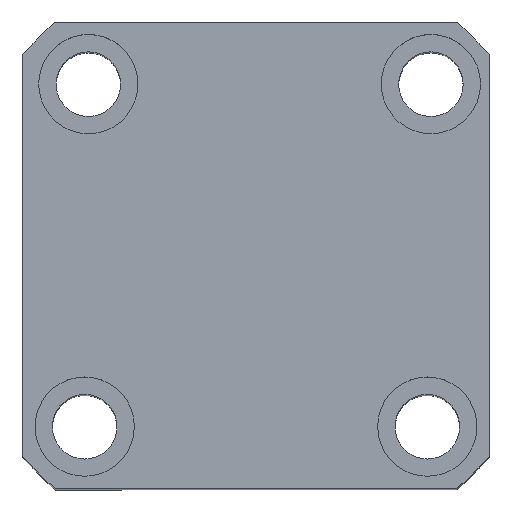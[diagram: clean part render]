
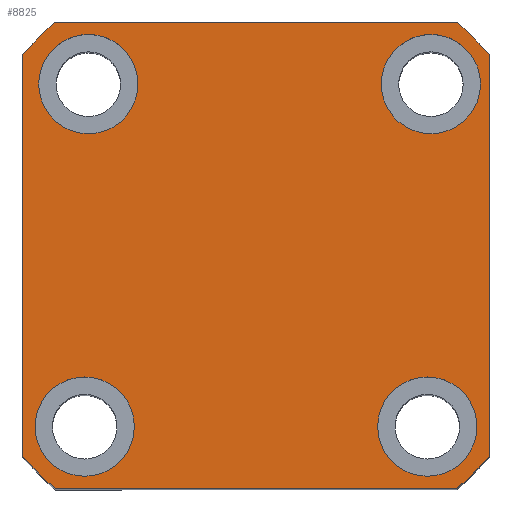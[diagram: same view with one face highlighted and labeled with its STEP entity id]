
A CAD part, top view. The second image highlights one B-rep face of the part: STEP entity #8825.
In plain terms, the highlighted planar face has unit normal (0, 0, 1) as drawn and (0, 0, -1) by its records, which use the part's own axes.
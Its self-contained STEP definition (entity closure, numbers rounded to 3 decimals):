
#50 = DIRECTION ( 'NONE',  ( 1., 0., 0. ) ) ;
#314 = DIRECTION ( 'NONE',  ( 1., 0., 0. ) ) ;
#388 = EDGE_CURVE ( 'NONE', #6160, #10420, #16152, .T. ) ;
#458 = DIRECTION ( 'NONE',  ( 0., 0., 1. ) ) ;
#506 = CIRCLE ( 'NONE', #16289, 10. ) ;
#579 = ORIENTED_EDGE ( 'NONE', *, *, #16256, .F. ) ;
#604 = VERTEX_POINT ( 'NONE', #9990 ) ;
#772 = CARTESIAN_POINT ( 'NONE',  ( 0., 0., 0. ) ) ;
#929 = DIRECTION ( 'NONE',  ( -1., 0., 0. ) ) ;
#956 = AXIS2_PLACEMENT_3D ( 'NONE', #16520, #8298, #50 ) ;
#1002 = EDGE_CURVE ( 'NONE', #4892, #7917, #7990, .T. ) ;
#1148 = CARTESIAN_POINT ( 'NONE',  ( 35.23, -34.5, 0. ) ) ;
#1442 = AXIS2_PLACEMENT_3D ( 'NONE', #2651, #12257, #4025 ) ;
#1810 = CIRCLE ( 'NONE', #7074, 62. ) ;
#2023 = CARTESIAN_POINT ( 'NONE',  ( -33.77, -34.5, 0. ) ) ;
#2184 = LINE ( 'NONE', #9155, #15931 ) ;
#2206 = CARTESIAN_POINT ( 'NONE',  ( -34.5, 34.5, 0. ) ) ;
#2238 = AXIS2_PLACEMENT_3D ( 'NONE', #8707, #458, #10072 ) ;
#2259 = VERTEX_POINT ( 'NONE', #9032 ) ;
#2310 = DIRECTION ( 'NONE',  ( 0., 1., 0. ) ) ;
#2402 = DIRECTION ( 'NONE',  ( 0., -1., 0. ) ) ;
#2470 = ORIENTED_EDGE ( 'NONE', *, *, #17253, .F. ) ;
#2530 = DIRECTION ( 'NONE',  ( -1., 0., 0. ) ) ;
#2651 = CARTESIAN_POINT ( 'NONE',  ( 34.5, 34.5, 0. ) ) ;
#2840 = VERTEX_POINT ( 'NONE', #6070 ) ;
#3096 = FACE_OUTER_BOUND ( 'NONE', #8111, .T. ) ;
#3389 = EDGE_CURVE ( 'NONE', #12314, #10019, #17509, .T. ) ;
#3404 = DIRECTION ( 'NONE',  ( -1., 0., 0. ) ) ;
#3543 = FACE_BOUND ( 'NONE', #6830, .T. ) ;
#3586 = DIRECTION ( 'NONE',  ( -1., 0., 0. ) ) ;
#3598 = EDGE_LOOP ( 'NONE', ( #9371, #11863 ) ) ;
#3698 = CARTESIAN_POINT ( 'NONE',  ( -47., 47., 0. ) ) ;
#3708 = ORIENTED_EDGE ( 'NONE', *, *, #4887, .F. ) ;
#3722 = EDGE_CURVE ( 'NONE', #10420, #6160, #16215, .T. ) ;
#4025 = DIRECTION ( 'NONE',  ( -1., 0., 0. ) ) ;
#4118 = VERTEX_POINT ( 'NONE', #5917 ) ;
#4172 = ORIENTED_EDGE ( 'NONE', *, *, #7262, .F. ) ;
#4520 = AXIS2_PLACEMENT_3D ( 'NONE', #2206, #11798, #3586 ) ;
#4827 = CARTESIAN_POINT ( 'NONE',  ( -34.5, 34.5, 0. ) ) ;
#4887 = EDGE_CURVE ( 'NONE', #16491, #4892, #15792, .T. ) ;
#4892 = VERTEX_POINT ( 'NONE', #9870 ) ;
#4911 = DIRECTION ( 'NONE',  ( 0., 0., 1. ) ) ;
#5014 = VERTEX_POINT ( 'NONE', #5773 ) ;
#5301 = CARTESIAN_POINT ( 'NONE',  ( 47., -40.435, 0. ) ) ;
#5369 = CARTESIAN_POINT ( 'NONE',  ( -33.77, -34.5, 0. ) ) ;
#5490 = CARTESIAN_POINT ( 'NONE',  ( 47., 40.435, 0. ) ) ;
#5773 = CARTESIAN_POINT ( 'NONE',  ( -23.77, -34.5, 0. ) ) ;
#5788 = DIRECTION ( 'NONE',  ( 1., 0., 0. ) ) ;
#5917 = CARTESIAN_POINT ( 'NONE',  ( -24.5, 34.5, 0. ) ) ;
#5941 = CARTESIAN_POINT ( 'NONE',  ( 45.23, -34.5, 0. ) ) ;
#5975 = AXIS2_PLACEMENT_3D ( 'NONE', #16773, #8561, #314 ) ;
#6070 = CARTESIAN_POINT ( 'NONE',  ( -43.77, -34.5, 0. ) ) ;
#6153 = AXIS2_PLACEMENT_3D ( 'NONE', #772, #4911, #14538 ) ;
#6160 = VERTEX_POINT ( 'NONE', #5941 ) ;
#6184 = DIRECTION ( 'NONE',  ( 0., 0., -1. ) ) ;
#6189 = DIRECTION ( 'NONE',  ( 0., 0., -1. ) ) ;
#6215 = DIRECTION ( 'NONE',  ( -1., 0., 0. ) ) ;
#6511 = AXIS2_PLACEMENT_3D ( 'NONE', #5369, #14997, #6776 ) ;
#6776 = DIRECTION ( 'NONE',  ( -1., 0., 0. ) ) ;
#6778 = FACE_BOUND ( 'NONE', #16476, .T. ) ;
#6830 = EDGE_LOOP ( 'NONE', ( #17809, #11343 ) ) ;
#7074 = AXIS2_PLACEMENT_3D ( 'NONE', #16438, #8210, #17814 ) ;
#7195 = CARTESIAN_POINT ( 'NONE',  ( -47., -47., 0. ) ) ;
#7262 = EDGE_CURVE ( 'NONE', #2259, #14836, #16841, .T. ) ;
#7392 = ORIENTED_EDGE ( 'NONE', *, *, #3722, .F. ) ;
#7622 = CIRCLE ( 'NONE', #4520, 10. ) ;
#7917 = VERTEX_POINT ( 'NONE', #10784 ) ;
#7985 = EDGE_CURVE ( 'NONE', #2840, #5014, #10200, .T. ) ;
#7990 = LINE ( 'NONE', #3698, #13571 ) ;
#8111 = EDGE_LOOP ( 'NONE', ( #3708, #2470, #13852, #4172, #11920, #579, #14336, #14066 ) ) ;
#8210 = DIRECTION ( 'NONE',  ( 0., 0., 1. ) ) ;
#8298 = DIRECTION ( 'NONE',  ( 0., 0., 1. ) ) ;
#8511 = CARTESIAN_POINT ( 'NONE',  ( 24.5, 34.5, 0. ) ) ;
#8516 = AXIS2_PLACEMENT_3D ( 'NONE', #14409, #6189, #15798 ) ;
#8561 = DIRECTION ( 'NONE',  ( 0., 0., 1. ) ) ;
#8668 = VERTEX_POINT ( 'NONE', #12965 ) ;
#8707 = CARTESIAN_POINT ( 'NONE',  ( 0., 0., 0. ) ) ;
#8825 = ADVANCED_FACE ( 'NONE', ( #14504, #3543, #6778, #17718, #3096 ), #10258, .F. ) ;
#8844 = VECTOR ( 'NONE', #2402, 1000. ) ;
#9032 = CARTESIAN_POINT ( 'NONE',  ( -40.435, -47., 0. ) ) ;
#9155 = CARTESIAN_POINT ( 'NONE',  ( 47., 47., 0. ) ) ;
#9170 = EDGE_CURVE ( 'NONE', #14836, #12636, #1810, .T. ) ;
#9357 = EDGE_CURVE ( 'NONE', #5014, #2840, #506, .T. ) ;
#9371 = ORIENTED_EDGE ( 'NONE', *, *, #17557, .F. ) ;
#9814 = EDGE_LOOP ( 'NONE', ( #7392, #15376 ) ) ;
#9870 = CARTESIAN_POINT ( 'NONE',  ( 40.435, 47., 0. ) ) ;
#9990 = CARTESIAN_POINT ( 'NONE',  ( -47., 40.435, 0. ) ) ;
#10019 = VERTEX_POINT ( 'NONE', #8511 ) ;
#10072 = DIRECTION ( 'NONE',  ( 1., 0., 0. ) ) ;
#10200 = CIRCLE ( 'NONE', #6511, 10. ) ;
#10258 = PLANE ( 'NONE',  #6153 ) ;
#10273 = CARTESIAN_POINT ( 'NONE',  ( -47., -40.435, 0. ) ) ;
#10287 = CARTESIAN_POINT ( 'NONE',  ( 44.5, 34.5, 0. ) ) ;
#10411 = EDGE_CURVE ( 'NONE', #4118, #8668, #7622, .T. ) ;
#10420 = VERTEX_POINT ( 'NONE', #15896 ) ;
#10746 = DIRECTION ( 'NONE',  ( 0., 0., -1. ) ) ;
#10784 = CARTESIAN_POINT ( 'NONE',  ( -40.435, 47., 0. ) ) ;
#10802 = ORIENTED_EDGE ( 'NONE', *, *, #14070, .F. ) ;
#11035 = AXIS2_PLACEMENT_3D ( 'NONE', #14405, #6184, #15790 ) ;
#11207 = CIRCLE ( 'NONE', #12354, 10. ) ;
#11306 = VERTEX_POINT ( 'NONE', #10273 ) ;
#11343 = ORIENTED_EDGE ( 'NONE', *, *, #9357, .F. ) ;
#11615 = DIRECTION ( 'NONE',  ( 0., 0., -1. ) ) ;
#11798 = DIRECTION ( 'NONE',  ( 0., 0., -1. ) ) ;
#11863 = ORIENTED_EDGE ( 'NONE', *, *, #3389, .F. ) ;
#11920 = ORIENTED_EDGE ( 'NONE', *, *, #13429, .F. ) ;
#12257 = DIRECTION ( 'NONE',  ( 0., 0., -1. ) ) ;
#12314 = VERTEX_POINT ( 'NONE', #10287 ) ;
#12354 = AXIS2_PLACEMENT_3D ( 'NONE', #4827, #14442, #6215 ) ;
#12636 = VERTEX_POINT ( 'NONE', #5301 ) ;
#12750 = VECTOR ( 'NONE', #5788, 1000. ) ;
#12965 = CARTESIAN_POINT ( 'NONE',  ( -44.5, 34.5, 0. ) ) ;
#13429 = EDGE_CURVE ( 'NONE', #11306, #2259, #17023, .T. ) ;
#13571 = VECTOR ( 'NONE', #929, 1000. ) ;
#13780 = CIRCLE ( 'NONE', #956, 62. ) ;
#13852 = ORIENTED_EDGE ( 'NONE', *, *, #9170, .F. ) ;
#14066 = ORIENTED_EDGE ( 'NONE', *, *, #1002, .F. ) ;
#14070 = EDGE_CURVE ( 'NONE', #8668, #4118, #11207, .T. ) ;
#14252 = ORIENTED_EDGE ( 'NONE', *, *, #10411, .F. ) ;
#14336 = ORIENTED_EDGE ( 'NONE', *, *, #17679, .F. ) ;
#14405 = CARTESIAN_POINT ( 'NONE',  ( 35.23, -34.5, 0. ) ) ;
#14409 = CARTESIAN_POINT ( 'NONE',  ( 34.5, 34.5, 0. ) ) ;
#14442 = DIRECTION ( 'NONE',  ( 0., 0., -1. ) ) ;
#14504 = FACE_BOUND ( 'NONE', #9814, .T. ) ;
#14538 = DIRECTION ( 'NONE',  ( 1., 0., 0. ) ) ;
#14655 = CARTESIAN_POINT ( 'NONE',  ( -47., 47., 0. ) ) ;
#14656 = CIRCLE ( 'NONE', #1442, 10. ) ;
#14836 = VERTEX_POINT ( 'NONE', #15681 ) ;
#14997 = DIRECTION ( 'NONE',  ( 0., 0., -1. ) ) ;
#15376 = ORIENTED_EDGE ( 'NONE', *, *, #388, .F. ) ;
#15681 = CARTESIAN_POINT ( 'NONE',  ( 40.435, -47., 0. ) ) ;
#15790 = DIRECTION ( 'NONE',  ( -1., 0., 0. ) ) ;
#15792 = CIRCLE ( 'NONE', #5975, 62. ) ;
#15798 = DIRECTION ( 'NONE',  ( -1., 0., 0. ) ) ;
#15896 = CARTESIAN_POINT ( 'NONE',  ( 25.23, -34.5, 0. ) ) ;
#15931 = VECTOR ( 'NONE', #2310, 1000. ) ;
#16152 = CIRCLE ( 'NONE', #11035, 10. ) ;
#16160 = LINE ( 'NONE', #14655, #8844 ) ;
#16215 = CIRCLE ( 'NONE', #17722, 10. ) ;
#16256 = EDGE_CURVE ( 'NONE', #604, #11306, #16160, .T. ) ;
#16289 = AXIS2_PLACEMENT_3D ( 'NONE', #2023, #11615, #3404 ) ;
#16438 = CARTESIAN_POINT ( 'NONE',  ( 0., 0., 0. ) ) ;
#16476 = EDGE_LOOP ( 'NONE', ( #10802, #14252 ) ) ;
#16491 = VERTEX_POINT ( 'NONE', #5490 ) ;
#16520 = CARTESIAN_POINT ( 'NONE',  ( 0., 0., 0. ) ) ;
#16773 = CARTESIAN_POINT ( 'NONE',  ( 0., 0., 0. ) ) ;
#16841 = LINE ( 'NONE', #7195, #12750 ) ;
#17023 = CIRCLE ( 'NONE', #2238, 62. ) ;
#17253 = EDGE_CURVE ( 'NONE', #12636, #16491, #2184, .T. ) ;
#17509 = CIRCLE ( 'NONE', #8516, 10. ) ;
#17557 = EDGE_CURVE ( 'NONE', #10019, #12314, #14656, .T. ) ;
#17679 = EDGE_CURVE ( 'NONE', #7917, #604, #13780, .T. ) ;
#17718 = FACE_BOUND ( 'NONE', #3598, .T. ) ;
#17722 = AXIS2_PLACEMENT_3D ( 'NONE', #1148, #10746, #2530 ) ;
#17809 = ORIENTED_EDGE ( 'NONE', *, *, #7985, .F. ) ;
#17814 = DIRECTION ( 'NONE',  ( 1., 0., 0. ) ) ;
